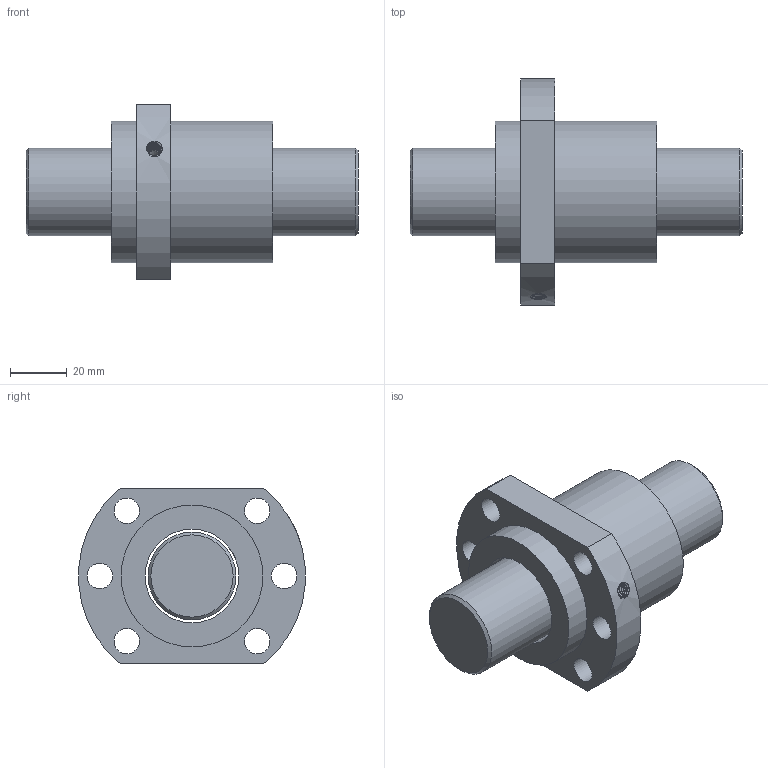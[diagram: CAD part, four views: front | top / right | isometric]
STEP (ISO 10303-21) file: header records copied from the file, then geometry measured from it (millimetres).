
FILE_DESCRIPTION (( 'STEP AP203' ), '1' );
FILE_NAME ('SFH3210-3.8.STEP', '2023-08-16T05:13:07', ( '' ), ( '' ), 'SwSTEP 2.0', 'SolidWorks 2022', '' );
FILE_SCHEMA (( 'CONFIG_CONTROL_DESIGN' ));
Length unit declared in the file: millimetre
Products named in the file (1): SFH3210-3.8
Bounding box: 117 x 79.74 x 62 mm (x, y, z)
Volume: 175797.3 mm3; surface area: 37386.9 mm2
Topology: 2 solids, 2 shells, 30 faces, 69 edges, 45 vertices
Faces by surface type: cylinder 16, plane 9, cone 3, bspline 2
Full cylindrical faces by diameter (mm): 3 x1, 4.917 x1, 9 x6, 31 x1, 33 x1, 50 x2
Entity records: 2616 total; most frequent: CARTESIAN_POINT 1916, DIRECTION 128, ORIENTED_EDGE 100, EDGE_LOOP 63, AXIS2_PLACEMENT_3D 60, EDGE_CURVE 50, FACE_OUTER_BOUND 42, VERTEX_POINT 41
